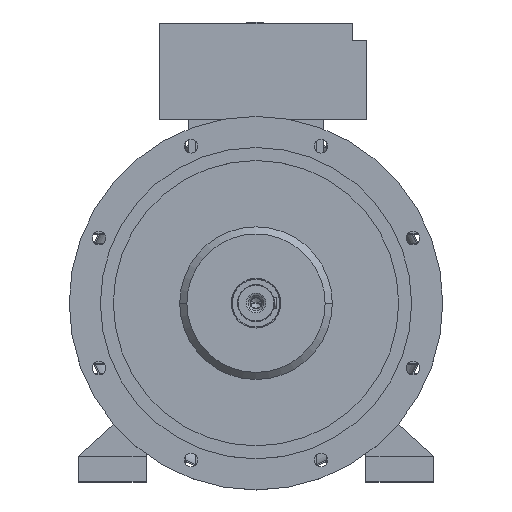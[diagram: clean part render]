
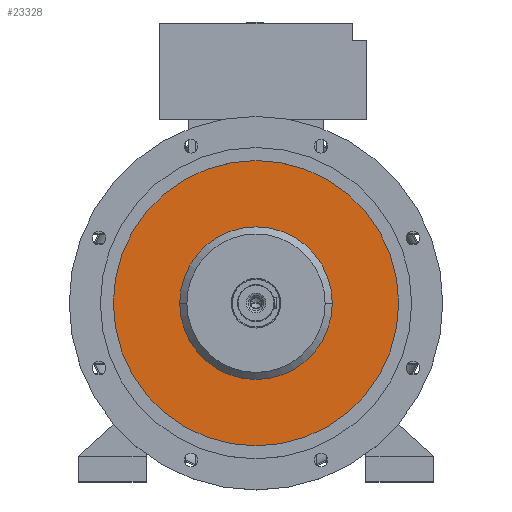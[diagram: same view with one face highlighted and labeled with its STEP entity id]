
A CAD part, top view. The second image highlights one B-rep face of the part: STEP entity #23328.
In plain terms, the highlighted planar face has unit normal (0, 0, 1).
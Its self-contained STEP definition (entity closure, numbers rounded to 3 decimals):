
#630 = CARTESIAN_POINT ( 'NONE',  ( 0., 0., 455.4 ) ) ;
#1456 = EDGE_CURVE ( 'NONE', #8707, #24338, #6048, .T. ) ;
#1894 = DIRECTION ( 'NONE',  ( -1., 0., 0. ) ) ;
#3018 = EDGE_CURVE ( 'NONE', #14534, #16611, #24790, .T. ) ;
#4832 = CARTESIAN_POINT ( 'NONE',  ( 0., 0., 455.4 ) ) ;
#4867 = CARTESIAN_POINT ( 'NONE',  ( 0., 0., 455.4 ) ) ;
#4890 = FACE_BOUND ( 'NONE', #12202, .T. ) ;
#5431 = PLANE ( 'NONE',  #23506 ) ;
#5530 = FACE_OUTER_BOUND ( 'NONE', #7741, .T. ) ;
#6048 = CIRCLE ( 'NONE', #26604, 134.8 ) ;
#7452 = DIRECTION ( 'NONE',  ( 0., 0., 1. ) ) ;
#7741 = EDGE_LOOP ( 'NONE', ( #21705, #11465 ) ) ;
#8660 = AXIS2_PLACEMENT_3D ( 'NONE', #20019, #25996, #1894 ) ;
#8707 = VERTEX_POINT ( 'NONE', #8763 ) ;
#8763 = CARTESIAN_POINT ( 'NONE',  ( -134.8, 0., 455.4 ) ) ;
#9081 = DIRECTION ( 'NONE',  ( 0., 0., -1. ) ) ;
#9517 = DIRECTION ( 'NONE',  ( -1., 0., 0. ) ) ;
#11058 = CARTESIAN_POINT ( 'NONE',  ( 134.8, 0., 455.4 ) ) ;
#11465 = ORIENTED_EDGE ( 'NONE', *, *, #3018, .T. ) ;
#12202 = EDGE_LOOP ( 'NONE', ( #19482, #15535 ) ) ;
#12653 = EDGE_CURVE ( 'NONE', #24338, #8707, #14378, .T. ) ;
#13109 = DIRECTION ( 'NONE',  ( 0., 0., -1. ) ) ;
#14378 = CIRCLE ( 'NONE', #23250, 134.8 ) ;
#14534 = VERTEX_POINT ( 'NONE', #17683 ) ;
#15535 = ORIENTED_EDGE ( 'NONE', *, *, #12653, .T. ) ;
#16611 = VERTEX_POINT ( 'NONE', #20362 ) ;
#17683 = CARTESIAN_POINT ( 'NONE',  ( 252.083, 0., 455.4 ) ) ;
#19394 = DIRECTION ( 'NONE',  ( -1., 0., 0. ) ) ;
#19482 = ORIENTED_EDGE ( 'NONE', *, *, #1456, .T. ) ;
#19950 = CIRCLE ( 'NONE', #8660, 252.083 ) ;
#20019 = CARTESIAN_POINT ( 'NONE',  ( 0., 0., 455.4 ) ) ;
#20362 = CARTESIAN_POINT ( 'NONE',  ( -252.083, 0., 455.4 ) ) ;
#21693 = CARTESIAN_POINT ( 'NONE',  ( 0., 252.083, 455.4 ) ) ;
#21705 = ORIENTED_EDGE ( 'NONE', *, *, #25447, .T. ) ;
#23250 = AXIS2_PLACEMENT_3D ( 'NONE', #4867, #13109, #19394 ) ;
#23328 = ADVANCED_FACE ( 'NONE', ( #4890, #5530 ), #5431, .T. ) ;
#23337 = DIRECTION ( 'NONE',  ( -1., 0., 0. ) ) ;
#23486 = AXIS2_PLACEMENT_3D ( 'NONE', #630, #7452, #9517 ) ;
#23506 = AXIS2_PLACEMENT_3D ( 'NONE', #21693, #23665, #25768 ) ;
#23665 = DIRECTION ( 'NONE',  ( 0., 0., 1. ) ) ;
#24338 = VERTEX_POINT ( 'NONE', #11058 ) ;
#24790 = CIRCLE ( 'NONE', #23486, 252.083 ) ;
#25447 = EDGE_CURVE ( 'NONE', #16611, #14534, #19950, .T. ) ;
#25768 = DIRECTION ( 'NONE',  ( 1., 0., 0. ) ) ;
#25996 = DIRECTION ( 'NONE',  ( 0., 0., 1. ) ) ;
#26604 = AXIS2_PLACEMENT_3D ( 'NONE', #4832, #9081, #23337 ) ;
